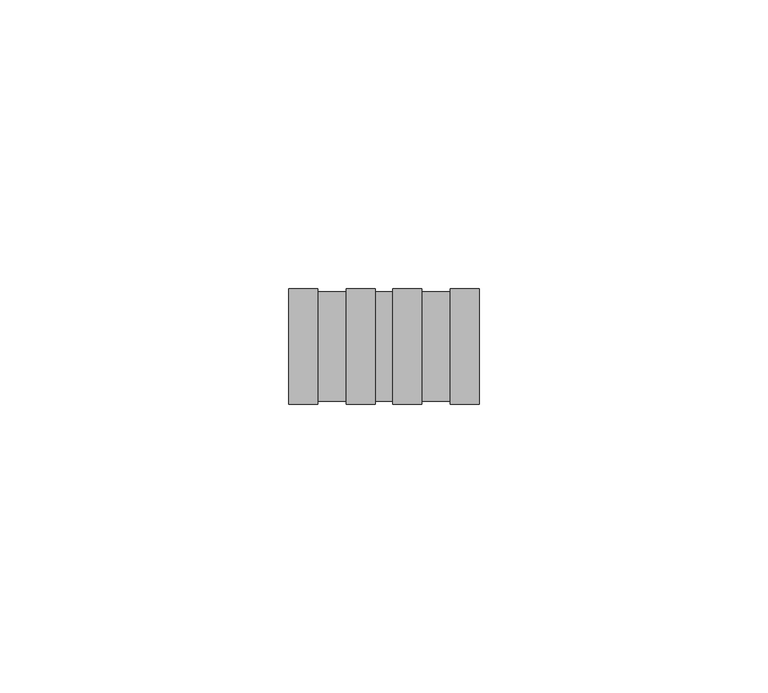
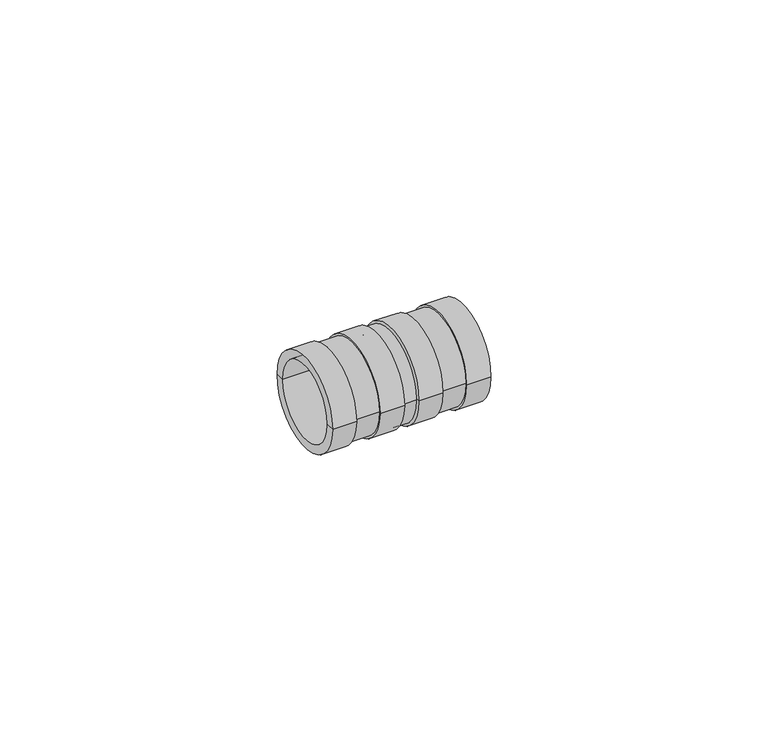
"""IFC4 building model written with IfcOpenShell, lengths in millimetres: pipe fitting geometry, Astra - União para Tubos - KMU : Astra - União para Tubos - KMU."""

from ifc_helpers import new_model, si_unit, frame, origin, place, context, project, spatial, polyline, circle_curve, source, transform, mapped, element, save
from ifc_brep_helpers import plane_surface, cylinder_surface, revolved_surface, advanced_brep


def pipe_fitting_8e967877(model_context):
    return source(origin(), model_context, "Body", "AdvancedBrep", [
        advanced_brep(
        [(-16.5, -8.15, 0.0), (-16.5, 8.15, 0.0), (-16.5, 10.0, 0.0), (-16.5, -10.0, 0.0), (-1.5, -8.15, 0.0), (-1.5, 8.15, 0.0), (-1.5, -10.0, 0.0), (-1.5, 10.0, 0.0), (-11.5, 10.0, 0.0), (-11.5, -10.0, 0.0), (-6.5, -10.0, 0.0), (-6.5, 10.0, 0.0), (-11.5, 9.5, 0.0), (-11.5, -9.5, 0.0), (-6.5, 9.5, 0.0), (-6.5, -9.5, 0.0)],
        [
            (0, 1, circle_curve(frame((-16.5, 0.0, 0.0), z_axis=(1.0, 0.0, 0.0), x_axis=(0.0, 1.0, 0.0)), 8.15)),
            (1, 2),
            (2, 3, circle_curve(frame((-16.5, 0.0, 0.0), z_axis=(-1.0, 0.0, 0.0), x_axis=(0.0, 1.0, 0.0)), 10.0)),
            (3, 0),
            (1, 0, circle_curve(frame((-16.5, 0.0, 0.0), z_axis=(1.0, 0.0, 0.0), x_axis=(0.0, 1.0, 0.0)), 8.15)),
            (3, 2, circle_curve(frame((-16.5, 0.0, 0.0), z_axis=(-1.0, 0.0, 0.0), x_axis=(0.0, 1.0, 0.0)), 10.0)),
            (0, 4),
            (4, 5, circle_curve(frame((-1.5, 0.0, 0.0), z_axis=(1.0, 0.0, 0.0), x_axis=(0.0, 1.0, 0.0)), 8.15)),
            (5, 1),
            (5, 4, circle_curve(frame((-1.5, 0.0, 0.0), z_axis=(1.0, 0.0, 0.0), x_axis=(0.0, 1.0, 0.0)), 8.15)),
            (4, 6),
            (6, 7, circle_curve(frame((-1.5, 0.0, 0.0), z_axis=(1.0, 0.0, 0.0), x_axis=(0.0, 1.0, 0.0)), 10.0)),
            (7, 5),
            (7, 6, circle_curve(frame((-1.5, 0.0, 0.0), z_axis=(1.0, 0.0, 0.0), x_axis=(0.0, 1.0, 0.0)), 10.0)),
            (2, 8),
            (8, 9, circle_curve(frame((-11.5, 0.0, 0.0), z_axis=(-1.0, 0.0, 0.0), x_axis=(0.0, 1.0, 0.0)), 10.0)),
            (9, 3),
            (6, 10),
            (10, 11, circle_curve(frame((-6.5, 0.0, 0.0), z_axis=(1.0, 0.0, 0.0), x_axis=(0.0, 1.0, 0.0)), 10.0)),
            (11, 7),
            (9, 8, circle_curve(frame((-11.5, 0.0, 0.0), z_axis=(-1.0, 0.0, 0.0), x_axis=(0.0, 1.0, 0.0)), 10.0)),
            (11, 10, circle_curve(frame((-6.5, 0.0, 0.0), z_axis=(1.0, 0.0, 0.0), x_axis=(0.0, 1.0, 0.0)), 10.0)),
            (12, 13, circle_curve(frame((-11.5, 0.0, 0.0), z_axis=(-1.0, 0.0, 0.0), x_axis=(0.0, 1.0, 0.0)), 9.5)),
            (13, 9),
            (8, 12),
            (13, 12, circle_curve(frame((-11.5, 0.0, 0.0), z_axis=(-1.0, 0.0, 0.0), x_axis=(0.0, 1.0, 0.0)), 9.5)),
            (12, 14),
            (14, 15, circle_curve(frame((-6.5, 0.0, 0.0), z_axis=(-1.0, 0.0, 0.0), x_axis=(0.0, 1.0, 0.0)), 9.5)),
            (15, 13),
            (15, 14, circle_curve(frame((-6.5, 0.0, 0.0), z_axis=(-1.0, 0.0, 0.0), x_axis=(0.0, 1.0, 0.0)), 9.5)),
            (14, 11),
            (10, 15),
        ],
        [
            plane_surface(frame((-16.5, 0.0, 0.0), z_axis=(-1.0, 0.0, 0.0), x_axis=(0.0, 1.0, 0.0))),
            revolved_surface(polyline([(-16.5, 8.15, 0.0), (-1.5, 8.15, 0.0)]), (-16.5, 0.0, 0.0), (-1.0, 0.0, 0.0)),
            plane_surface(frame((-1.5, 0.0, 0.0), z_axis=(1.0, 0.0, 0.0), x_axis=(0.0, 1.0, 0.0))),
            cylinder_surface(frame((-16.5, 0.0, 0.0), z_axis=(-1.0, 0.0, 0.0), x_axis=(0.0, 1.0, 0.0)), 10.0),
            plane_surface(frame((-11.5, 0.0, 0.0), z_axis=(1.0, 0.0, 0.0), x_axis=(0.0, 1.0, 0.0))),
            cylinder_surface(frame((-16.5, 0.0, 0.0), z_axis=(-1.0, 0.0, 0.0), x_axis=(0.0, 1.0, 0.0)), 9.5),
            plane_surface(frame((-6.5, 0.0, 0.0), z_axis=(-1.0, 0.0, 0.0), x_axis=(0.0, 1.0, 0.0))),
        ],
        [
            (0, [[1, 2, 3, 4]]),
            (0, [[-2, 5, -4, 6]]),
            (1, [[-1, 7, 8, 9]]),
            (1, [[-5, -9, 10, -7]]),
            (2, [[-8, 11, 12, 13]]),
            (2, [[-10, -13, 14, -11]]),
            (3, [[-3, 15, 16, 17]]),
            (3, [[-12, 18, 19, 20]]),
            (3, [[-6, -17, 21, -15]]),
            (3, [[-14, -20, 22, -18]]),
            (4, [[23, 24, -16, 25]]),
            (4, [[26, -25, -21, -24]]),
            (5, [[-23, 27, 28, 29]]),
            (5, [[-26, -29, 30, -27]]),
            (6, [[-28, 31, -19, 32]]),
            (6, [[-30, -32, -22, -31]]),
        ],
    ),
        advanced_brep(
        [(1.5, -8.15, 0.0), (1.5, 8.15, 0.0), (1.5, 10.0, 0.0), (1.5, -10.0, 0.0), (16.5, -8.15, 0.0), (16.5, 8.15, 0.0), (16.5, -10.0, 0.0), (16.5, 10.0, 0.0), (6.5, 10.0, 0.0), (6.5, -10.0, 0.0), (11.5, -10.0, 0.0), (11.5, 10.0, 0.0), (6.5, 9.5, 0.0), (6.5, -9.5, 0.0), (11.5, 9.5, 0.0), (11.5, -9.5, 0.0)],
        [
            (0, 1, circle_curve(frame((1.5, 0.0, 0.0), z_axis=(1.0, 0.0, 0.0), x_axis=(0.0, 1.0, 0.0)), 8.15)),
            (1, 2),
            (2, 3, circle_curve(frame((1.5, 0.0, 0.0), z_axis=(-1.0, 0.0, 0.0), x_axis=(0.0, 1.0, 0.0)), 10.0)),
            (3, 0),
            (1, 0, circle_curve(frame((1.5, 0.0, 0.0), z_axis=(1.0, 0.0, 0.0), x_axis=(0.0, 1.0, 0.0)), 8.15)),
            (3, 2, circle_curve(frame((1.5, 0.0, 0.0), z_axis=(-1.0, 0.0, 0.0), x_axis=(0.0, 1.0, 0.0)), 10.0)),
            (0, 4),
            (4, 5, circle_curve(frame((16.5, 0.0, 0.0), z_axis=(1.0, 0.0, 0.0), x_axis=(0.0, 1.0, 0.0)), 8.15)),
            (5, 1),
            (5, 4, circle_curve(frame((16.5, 0.0, 0.0), z_axis=(1.0, 0.0, 0.0), x_axis=(0.0, 1.0, 0.0)), 8.15)),
            (4, 6),
            (6, 7, circle_curve(frame((16.5, 0.0, 0.0), z_axis=(1.0, 0.0, 0.0), x_axis=(0.0, 1.0, 0.0)), 10.0)),
            (7, 5),
            (7, 6, circle_curve(frame((16.5, 0.0, 0.0), z_axis=(1.0, 0.0, 0.0), x_axis=(0.0, 1.0, 0.0)), 10.0)),
            (2, 8),
            (8, 9, circle_curve(frame((6.5, 0.0, 0.0), z_axis=(-1.0, 0.0, 0.0), x_axis=(0.0, 1.0, 0.0)), 10.0)),
            (9, 3),
            (6, 10),
            (10, 11, circle_curve(frame((11.5, 0.0, 0.0), z_axis=(1.0, 0.0, 0.0), x_axis=(0.0, 1.0, 0.0)), 10.0)),
            (11, 7),
            (9, 8, circle_curve(frame((6.5, 0.0, 0.0), z_axis=(-1.0, 0.0, 0.0), x_axis=(0.0, 1.0, 0.0)), 10.0)),
            (11, 10, circle_curve(frame((11.5, 0.0, 0.0), z_axis=(1.0, 0.0, 0.0), x_axis=(0.0, 1.0, 0.0)), 10.0)),
            (12, 13, circle_curve(frame((6.5, 0.0, 0.0), z_axis=(-1.0, 0.0, 0.0), x_axis=(0.0, 1.0, 0.0)), 9.5)),
            (13, 9),
            (8, 12),
            (13, 12, circle_curve(frame((6.5, 0.0, 0.0), z_axis=(-1.0, 0.0, 0.0), x_axis=(0.0, 1.0, 0.0)), 9.5)),
            (12, 14),
            (14, 15, circle_curve(frame((11.5, 0.0, 0.0), z_axis=(-1.0, 0.0, 0.0), x_axis=(0.0, 1.0, 0.0)), 9.5)),
            (15, 13),
            (15, 14, circle_curve(frame((11.5, 0.0, 0.0), z_axis=(-1.0, 0.0, 0.0), x_axis=(0.0, 1.0, 0.0)), 9.5)),
            (14, 11),
            (10, 15),
        ],
        [
            plane_surface(frame((1.5, 0.0, 0.0), z_axis=(-1.0, 0.0, 0.0), x_axis=(0.0, 1.0, 0.0))),
            revolved_surface(polyline([(1.5, 8.15, 0.0), (16.5, 8.15, 0.0)]), (1.5, 0.0, 0.0), (-1.0, 0.0, 0.0)),
            plane_surface(frame((16.5, 0.0, 0.0), z_axis=(1.0, 0.0, 0.0), x_axis=(0.0, 1.0, 0.0))),
            cylinder_surface(frame((1.5, 0.0, 0.0), z_axis=(-1.0, 0.0, 0.0), x_axis=(0.0, 1.0, 0.0)), 10.0),
            plane_surface(frame((6.5, 0.0, 0.0), z_axis=(1.0, 0.0, 0.0), x_axis=(0.0, 1.0, 0.0))),
            cylinder_surface(frame((1.5, 0.0, 0.0), z_axis=(-1.0, 0.0, 0.0), x_axis=(0.0, 1.0, 0.0)), 9.5),
            plane_surface(frame((11.5, 0.0, 0.0), z_axis=(-1.0, 0.0, 0.0), x_axis=(0.0, 1.0, 0.0))),
        ],
        [
            (0, [[1, 2, 3, 4]]),
            (0, [[-2, 5, -4, 6]]),
            (1, [[-1, 7, 8, 9]]),
            (1, [[-5, -9, 10, -7]]),
            (2, [[-8, 11, 12, 13]]),
            (2, [[-10, -13, 14, -11]]),
            (3, [[-3, 15, 16, 17]]),
            (3, [[-12, 18, 19, 20]]),
            (3, [[-6, -17, 21, -15]]),
            (3, [[-14, -20, 22, -18]]),
            (4, [[23, 24, -16, 25]]),
            (4, [[26, -25, -21, -24]]),
            (5, [[-23, 27, 28, 29]]),
            (5, [[-26, -29, 30, -27]]),
            (6, [[-28, 31, -19, 32]]),
            (6, [[-30, -32, -22, -31]]),
        ],
    ),
        advanced_brep(
        [(1.5, -9.5, 0.0), (1.5, 9.5, 0.0), (1.5, 0.0, 0.0), (-1.5, -9.5, 0.0), (-1.5, 9.5, 0.0), (-1.5, 0.0, 0.0)],
        [
            (0, 1, circle_curve(frame((1.5, 0.0, 0.0), z_axis=(1.0, 0.0, 0.0), x_axis=(0.0, 1.0, 0.0)), 9.5)),
            (1, 2),
            (2, 0),
            (1, 0, circle_curve(frame((1.5, 0.0, 0.0), z_axis=(1.0, 0.0, 0.0), x_axis=(0.0, 1.0, 0.0)), 9.5)),
            (3, 4, circle_curve(frame((-1.5, 0.0, 0.0), z_axis=(1.0, 0.0, 0.0), x_axis=(0.0, 1.0, 0.0)), 9.5)),
            (4, 1),
            (0, 3),
            (4, 3, circle_curve(frame((-1.5, 0.0, 0.0), z_axis=(1.0, 0.0, 0.0), x_axis=(0.0, 1.0, 0.0)), 9.5)),
            (5, 4),
            (3, 5),
        ],
        [
            plane_surface(frame((1.5, 0.0, 0.0), z_axis=(1.0, 0.0, 0.0), x_axis=(0.0, 1.0, 0.0))),
            cylinder_surface(frame((-1.5, 0.0, 0.0), z_axis=(-1.0, 0.0, 0.0), x_axis=(0.0, 1.0, 0.0)), 9.5),
            plane_surface(frame((-1.5, 0.0, 0.0), z_axis=(-1.0, 0.0, 0.0), x_axis=(0.0, 1.0, 0.0))),
        ],
        [
            (0, [[1, 2, 3]]),
            (0, [[4, -3, -2]]),
            (1, [[5, 6, -1, 7]]),
            (1, [[8, -7, -4, -6]]),
            (2, [[9, -5, 10]]),
            (2, [[-10, -8, -9]]),
        ],
    ),
    ])


if __name__ == "__main__":
    model = new_model("IFC4")
    model_context = context("Model", 3, world=origin())
    ifc_project = project(units=[si_unit("LENGTHUNIT", "METRE", prefix="MILLI")], contexts=[model_context])
    site = spatial("IfcSite", under=ifc_project)
    building = spatial("IfcBuilding", under=site)
    placement = place(None, origin())
    pipe_fitting_shape = pipe_fitting_8e967877(model_context)
    element("IfcPipeFitting", 1, ObjectType="Astra - União para Tubos - KMU : Astra - União para Tubos - KMU", at=placement, inside=building, context=model_context, shape_type="MappedRepresentation", body=[
        mapped(pipe_fitting_shape, transform((0.0, 0.0, 0.0), x_axis=(1.0, 0.0, 0.0), y_axis=(0.0, 1.0, 0.0), z_axis=(0.0, 0.0, 1.0))),
    ])
    save(model, "model.ifc")
